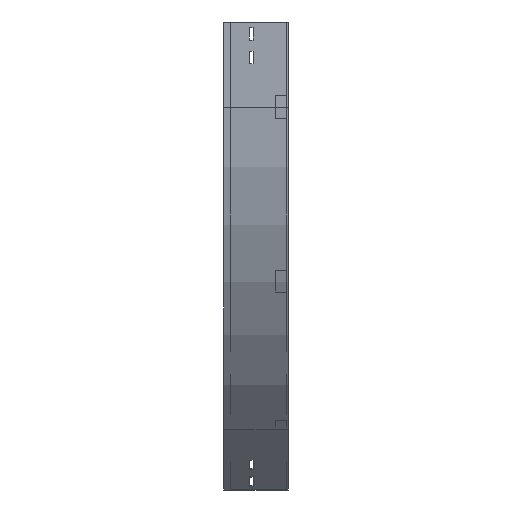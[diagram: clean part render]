
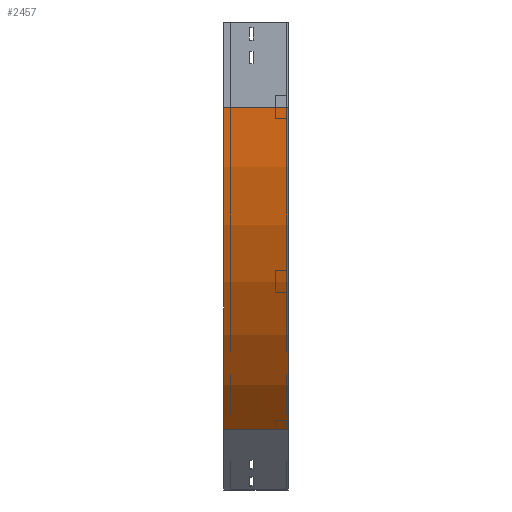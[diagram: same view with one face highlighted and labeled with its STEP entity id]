
A CAD part, left-side view. The second image highlights one B-rep face of the part: STEP entity #2457.
In plain terms, the highlighted cylindrical face has radius 800 mm (diameter 1600 mm), a partial arc.
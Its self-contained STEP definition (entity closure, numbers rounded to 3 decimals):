
#45 = DIRECTION ( 'NONE',  ( 0., -1., 0. ) ) ;
#94 = EDGE_CURVE ( 'NONE', #2594, #341, #1217, .T. ) ;
#118 = ORIENTED_EDGE ( 'NONE', *, *, #2087, .T. ) ;
#200 = AXIS2_PLACEMENT_3D ( 'NONE', #1043, #2843, #3130 ) ;
#259 = CARTESIAN_POINT ( 'NONE',  ( 234.315, 0., -715.685 ) ) ;
#341 = VERTEX_POINT ( 'NONE', #408 ) ;
#348 = CARTESIAN_POINT ( 'NONE',  ( 0., 112.5, -150. ) ) ;
#408 = CARTESIAN_POINT ( 'NONE',  ( 0., 0., -150. ) ) ;
#785 = LINE ( 'NONE', #1647, #2600 ) ;
#821 = CYLINDRICAL_SURFACE ( 'NONE', #200, 800. ) ;
#1043 = CARTESIAN_POINT ( 'NONE',  ( 800., 0., -150. ) ) ;
#1217 = LINE ( 'NONE', #3537, #2360 ) ;
#1225 = DIRECTION ( 'NONE',  ( -1., 0., 0. ) ) ;
#1292 = EDGE_CURVE ( 'NONE', #2594, #2165, #1619, .T. ) ;
#1297 = CIRCLE ( 'NONE', #2928, 800. ) ;
#1450 = DIRECTION ( 'NONE',  ( 0., -1., 0. ) ) ;
#1549 = ORIENTED_EDGE ( 'NONE', *, *, #1292, .T. ) ;
#1619 = CIRCLE ( 'NONE', #3812, 800. ) ;
#1647 = CARTESIAN_POINT ( 'NONE',  ( 234.315, 0., -715.685 ) ) ;
#1840 = ORIENTED_EDGE ( 'NONE', *, *, #3066, .F. ) ;
#2031 = VERTEX_POINT ( 'NONE', #259 ) ;
#2044 = DIRECTION ( 'NONE',  ( -1., 0., 0. ) ) ;
#2087 = EDGE_CURVE ( 'NONE', #2165, #2031, #785, .T. ) ;
#2165 = VERTEX_POINT ( 'NONE', #3525 ) ;
#2287 = DIRECTION ( 'NONE',  ( 0., -1., 0. ) ) ;
#2360 = VECTOR ( 'NONE', #2961, 1000. ) ;
#2457 = ADVANCED_FACE ( 'NONE', ( #2907 ), #821, .T. ) ;
#2594 = VERTEX_POINT ( 'NONE', #348 ) ;
#2600 = VECTOR ( 'NONE', #2287, 1000. ) ;
#2704 = CARTESIAN_POINT ( 'NONE',  ( 800., 0., -150. ) ) ;
#2843 = DIRECTION ( 'NONE',  ( 0., -1., 0. ) ) ;
#2881 = CARTESIAN_POINT ( 'NONE',  ( 800., 112.5, -150. ) ) ;
#2907 = FACE_OUTER_BOUND ( 'NONE', #3166, .T. ) ;
#2928 = AXIS2_PLACEMENT_3D ( 'NONE', #2704, #45, #1225 ) ;
#2961 = DIRECTION ( 'NONE',  ( 0., -1., 0. ) ) ;
#3066 = EDGE_CURVE ( 'NONE', #341, #2031, #1297, .T. ) ;
#3130 = DIRECTION ( 'NONE',  ( 0., 0., -1. ) ) ;
#3166 = EDGE_LOOP ( 'NONE', ( #1840, #3712, #1549, #118 ) ) ;
#3525 = CARTESIAN_POINT ( 'NONE',  ( 234.315, 112.5, -715.685 ) ) ;
#3537 = CARTESIAN_POINT ( 'NONE',  ( 0., 0., -150. ) ) ;
#3712 = ORIENTED_EDGE ( 'NONE', *, *, #94, .F. ) ;
#3812 = AXIS2_PLACEMENT_3D ( 'NONE', #2881, #1450, #2044 ) ;
